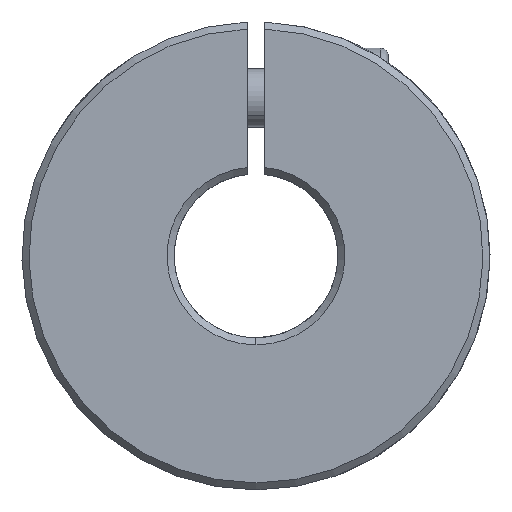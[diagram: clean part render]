
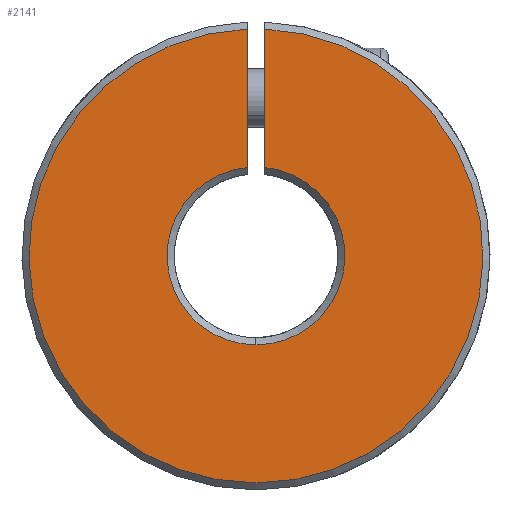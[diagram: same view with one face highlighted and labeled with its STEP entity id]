
A CAD part, front view. The second image highlights one B-rep face of the part: STEP entity #2141.
In plain terms, the highlighted planar face has unit normal (0, -1, 0).
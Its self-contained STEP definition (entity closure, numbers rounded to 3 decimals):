
#74 = DIRECTION ( 'NONE',  ( 0., 1., 0. ) ) ;
#115 = DIRECTION ( 'NONE',  ( 0., 0., 1. ) ) ;
#129 = EDGE_LOOP ( 'NONE', ( #5311, #5418, #4297, #779, #4285 ) ) ;
#177 = FACE_OUTER_BOUND ( 'NONE', #129, .T. ) ;
#321 = CIRCLE ( 'NONE', #2374, 19.4 ) ;
#592 = AXIS2_PLACEMENT_3D ( 'NONE', #4038, #74, #2764 ) ;
#658 = EDGE_CURVE ( 'NONE', #2651, #2516, #5541, .T. ) ;
#714 = VECTOR ( 'NONE', #5077, 1000. ) ;
#741 = EDGE_CURVE ( 'NONE', #2320, #5690, #1537, .T. ) ;
#779 = ORIENTED_EDGE ( 'NONE', *, *, #980, .T. ) ;
#980 = EDGE_CURVE ( 'NONE', #2516, #1529, #1485, .T. ) ;
#1040 = CARTESIAN_POINT ( 'NONE',  ( 0., -25., 0. ) ) ;
#1485 = LINE ( 'NONE', #4922, #2037 ) ;
#1529 = VERTEX_POINT ( 'NONE', #3330 ) ;
#1537 = LINE ( 'NONE', #3284, #714 ) ;
#1540 = CARTESIAN_POINT ( 'NONE',  ( 0.75, -25., 7.563 ) ) ;
#1740 = CARTESIAN_POINT ( 'NONE',  ( 0.75, -25., 19.385 ) ) ;
#2037 = VECTOR ( 'NONE', #2675, 1000. ) ;
#2141 = ADVANCED_FACE ( 'NONE', ( #177 ), #2368, .F. ) ;
#2299 = CARTESIAN_POINT ( 'NONE',  ( -0.75, -25., 7.563 ) ) ;
#2320 = VERTEX_POINT ( 'NONE', #1740 ) ;
#2368 = PLANE ( 'NONE',  #4094 ) ;
#2374 = AXIS2_PLACEMENT_3D ( 'NONE', #1040, #5386, #4891 ) ;
#2516 = VERTEX_POINT ( 'NONE', #2299 ) ;
#2651 = VERTEX_POINT ( 'NONE', #5162 ) ;
#2675 = DIRECTION ( 'NONE',  ( 0., 0., 1. ) ) ;
#2764 = DIRECTION ( 'NONE',  ( 0., 0., 1. ) ) ;
#2916 = EDGE_CURVE ( 'NONE', #1529, #2320, #321, .T. ) ;
#2926 = EDGE_CURVE ( 'NONE', #5690, #2651, #5605, .T. ) ;
#3055 = AXIS2_PLACEMENT_3D ( 'NONE', #4106, #3261, #115 ) ;
#3209 = DIRECTION ( 'NONE',  ( 0., 0., 1. ) ) ;
#3261 = DIRECTION ( 'NONE',  ( 0., 1., 0. ) ) ;
#3284 = CARTESIAN_POINT ( 'NONE',  ( 0.75, -25., -6. ) ) ;
#3330 = CARTESIAN_POINT ( 'NONE',  ( -0.75, -25., 19.385 ) ) ;
#3645 = CARTESIAN_POINT ( 'NONE',  ( 0., -25., 0. ) ) ;
#4038 = CARTESIAN_POINT ( 'NONE',  ( 0., -25., 0. ) ) ;
#4094 = AXIS2_PLACEMENT_3D ( 'NONE', #3645, #5427, #3209 ) ;
#4106 = CARTESIAN_POINT ( 'NONE',  ( 0., -25., 0. ) ) ;
#4285 = ORIENTED_EDGE ( 'NONE', *, *, #2916, .T. ) ;
#4297 = ORIENTED_EDGE ( 'NONE', *, *, #658, .T. ) ;
#4891 = DIRECTION ( 'NONE',  ( 0., 0., 1. ) ) ;
#4922 = CARTESIAN_POINT ( 'NONE',  ( -0.75, -25., -6. ) ) ;
#5077 = DIRECTION ( 'NONE',  ( 0., 0., -1. ) ) ;
#5162 = CARTESIAN_POINT ( 'NONE',  ( 0., -25., -7.6 ) ) ;
#5311 = ORIENTED_EDGE ( 'NONE', *, *, #741, .T. ) ;
#5386 = DIRECTION ( 'NONE',  ( 0., -1., 0. ) ) ;
#5418 = ORIENTED_EDGE ( 'NONE', *, *, #2926, .T. ) ;
#5427 = DIRECTION ( 'NONE',  ( 0., 1., 0. ) ) ;
#5541 = CIRCLE ( 'NONE', #3055, 7.6 ) ;
#5605 = CIRCLE ( 'NONE', #592, 7.6 ) ;
#5690 = VERTEX_POINT ( 'NONE', #1540 ) ;
